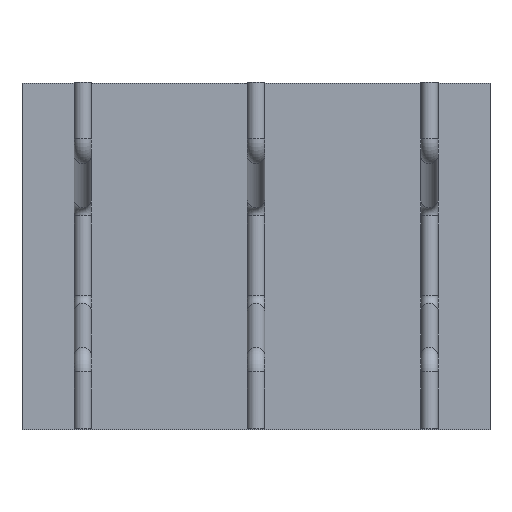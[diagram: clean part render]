
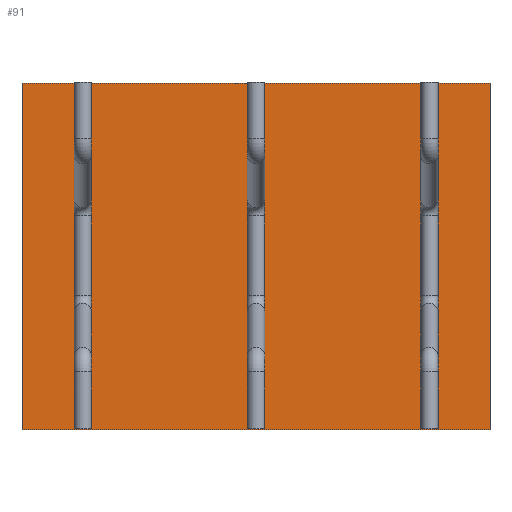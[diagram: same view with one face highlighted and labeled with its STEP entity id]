
A CAD part, top view. The second image highlights one B-rep face of the part: STEP entity #91.
In plain terms, the highlighted planar face has unit normal (0, 0, 1).
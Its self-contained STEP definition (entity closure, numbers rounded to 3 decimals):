
#52=CARTESIAN_POINT('Axis2P3D Location',(0.,0.,0.)) ;
#57=CARTESIAN_POINT('Line Origine',(0.,500.,0.)) ;
#61=CARTESIAN_POINT('Vertex',(675.,500.,0.)) ;
#63=CARTESIAN_POINT('Vertex',(-675.,500.,0.)) ;
#66=CARTESIAN_POINT('Line Origine',(-675.,0.,0.)) ;
#70=CARTESIAN_POINT('Vertex',(-675.,-500.,0.)) ;
#73=CARTESIAN_POINT('Line Origine',(0.,-500.,0.)) ;
#77=CARTESIAN_POINT('Vertex',(675.,-500.,0.)) ;
#80=CARTESIAN_POINT('Line Origine',(675.,0.,0.)) ;
#53=DIRECTION('Axis2P3D Direction',(0.,0.,1.)) ;
#54=DIRECTION('Axis2P3D XDirection',(1.,0.,0.)) ;
#58=DIRECTION('Vector Direction',(1.,0.,0.)) ;
#67=DIRECTION('Vector Direction',(0.,1.,0.)) ;
#74=DIRECTION('Vector Direction',(-1.,0.,0.)) ;
#81=DIRECTION('Vector Direction',(0.,-1.,0.)) ;
#55=AXIS2_PLACEMENT_3D('Plane Axis2P3D',#52,#53,#54) ;
#86=ORIENTED_EDGE('',*,*,#65,.T.) ;
#87=ORIENTED_EDGE('',*,*,#72,.T.) ;
#88=ORIENTED_EDGE('',*,*,#79,.T.) ;
#89=ORIENTED_EDGE('',*,*,#84,.T.) ;
#59=VECTOR('Line Direction',#58,1.) ;
#68=VECTOR('Line Direction',#67,1.) ;
#75=VECTOR('Line Direction',#74,1.) ;
#82=VECTOR('Line Direction',#81,1.) ;
#91=ADVANCED_FACE('Fill.1',(#90),#56,.T.) ;
#65=EDGE_CURVE('',#62,#64,#60,.F.) ;
#72=EDGE_CURVE('',#64,#71,#69,.F.) ;
#79=EDGE_CURVE('',#71,#78,#76,.F.) ;
#84=EDGE_CURVE('',#78,#62,#83,.F.) ;
#85=EDGE_LOOP('',(#86,#87,#88,#89)) ;
#90=FACE_OUTER_BOUND('',#85,.T.) ;
#60=LINE('Line',#57,#59) ;
#69=LINE('Line',#66,#68) ;
#76=LINE('Line',#73,#75) ;
#83=LINE('Line',#80,#82) ;
#56=PLANE('',#55) ;
#62=VERTEX_POINT('',#61) ;
#64=VERTEX_POINT('',#63) ;
#71=VERTEX_POINT('',#70) ;
#78=VERTEX_POINT('',#77) ;
